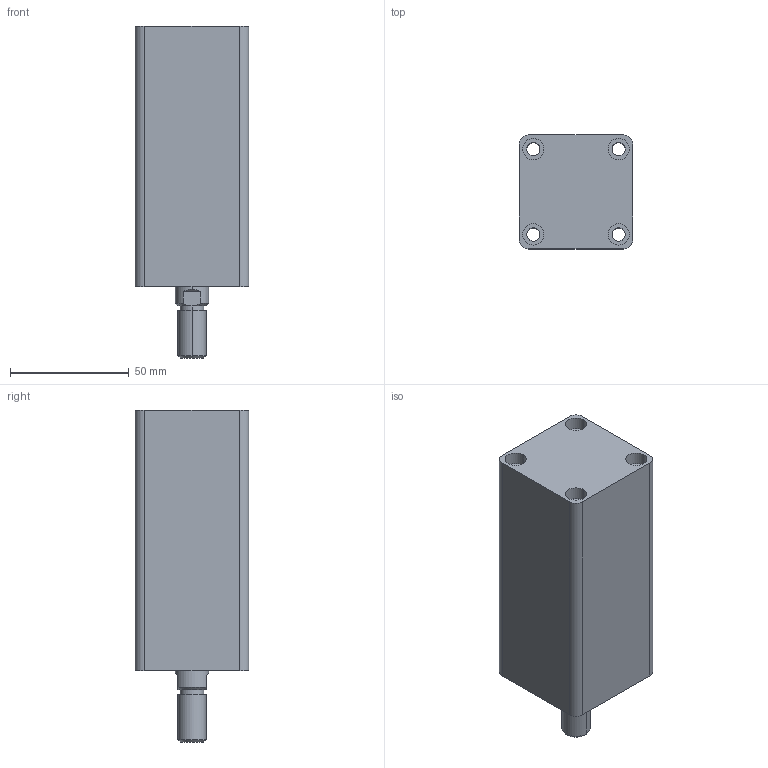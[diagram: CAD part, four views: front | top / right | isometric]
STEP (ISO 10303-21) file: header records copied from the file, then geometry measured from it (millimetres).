
FILE_DESCRIPTION (( 'STEP AP203' ), '1' );
FILE_NAME ('HTB-SD25-65W.STEP', '2019-10-07T06:18:31', ( '微软用户' ), ( '微软中国' ), 'SwSTEP 2.0', 'SolidWorks 2012', '' );
FILE_SCHEMA (( 'CONFIG_CONTROL_DESIGN' ));
Length unit declared in the file: millimetre
Products named in the file (3): HTB-SD25-65掛极; HTB-SD25-65W活塞杆; HTB-SD25-65W
Assembly tree (2 placements, depth 2):
  HTB-SD25-65W
    HTB-SD25-65掛极
    HTB-SD25-65W活塞杆
Bounding box: 48 x 48 x 140 mm (x, y, z)
Volume: 220025.5 mm3; surface area: 48473.7 mm2
Topology: 2 solids, 2 shells, 87 faces, 188 edges, 122 vertices
Faces by surface type: cylinder 44, plane 29, cone 8, torus 6
Entity records: 2759 total; most frequent: DIRECTION 476, CARTESIAN_POINT 446, ORIENTED_EDGE 376, AXIS2_PLACEMENT_3D 204, EDGE_CURVE 188, VERTEX_POINT 122, EDGE_LOOP 112, CIRCLE 112
